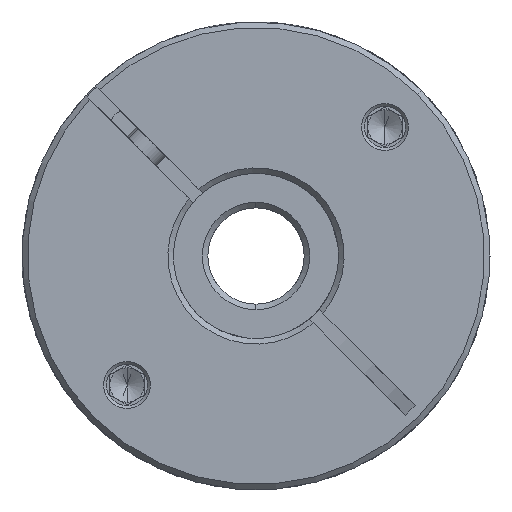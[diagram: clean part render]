
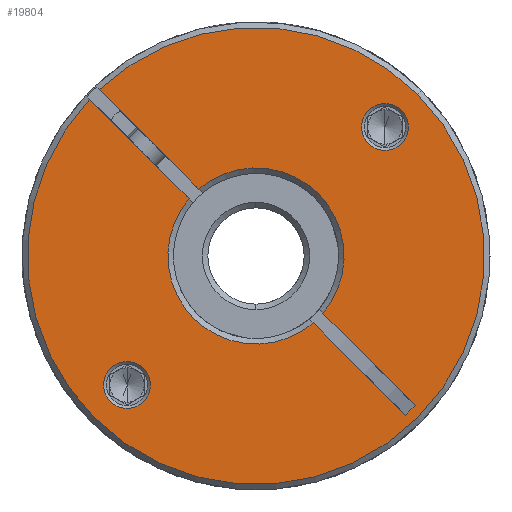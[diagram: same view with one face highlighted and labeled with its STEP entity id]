
A CAD part, front view. The second image highlights one B-rep face of the part: STEP entity #19804.
In plain terms, the highlighted planar face has unit normal (0, -1, 0).
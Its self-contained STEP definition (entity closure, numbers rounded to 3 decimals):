
#119 = CARTESIAN_POINT ( 'NONE',  ( 16.003, -67.045, 86.738 ) ) ;
#243 = DIRECTION ( 'NONE',  ( 0.707, 0., -0.707 ) ) ;
#452 = CARTESIAN_POINT ( 'NONE',  ( -19.069, -67.045, 51.666 ) ) ;
#539 = CARTESIAN_POINT ( 'NONE',  ( 18.407, -67.045, 89.142 ) ) ;
#543 = CARTESIAN_POINT ( 'NONE',  ( -2.735, -67.045, 68. ) ) ;
#909 = CARTESIAN_POINT ( 'NONE',  ( -2.735, -67.045, 68. ) ) ;
#920 = VERTEX_POINT ( 'NONE', #11904 ) ;
#1075 = CIRCLE ( 'NONE', #15099, 12.8 ) ;
#1234 = ORIENTED_EDGE ( 'NONE', *, *, #13383, .T. ) ;
#1530 = CARTESIAN_POINT ( 'NONE',  ( -25.493, -67.045, 92.172 ) ) ;
#1594 = CARTESIAN_POINT ( 'NONE',  ( -2.735, -67.045, 68. ) ) ;
#1637 = VERTEX_POINT ( 'NONE', #539 ) ;
#1730 = DIRECTION ( 'NONE',  ( 0.707, 0., 0.707 ) ) ;
#1946 = ORIENTED_EDGE ( 'NONE', *, *, #12187, .T. ) ;
#2082 = DIRECTION ( 'NONE',  ( 0.707, 0., 0.707 ) ) ;
#2195 = CARTESIAN_POINT ( 'NONE',  ( -3.442, -67.045, 67.293 ) ) ;
#2516 = EDGE_LOOP ( 'NONE', ( #17781, #1234 ) ) ;
#2738 = ORIENTED_EDGE ( 'NONE', *, *, #10467, .T. ) ;
#2809 = EDGE_CURVE ( 'NONE', #5464, #9027, #21040, .T. ) ;
#2909 = VERTEX_POINT ( 'NONE', #18828 ) ;
#3098 = VERTEX_POINT ( 'NONE', #11163 ) ;
#3099 = CIRCLE ( 'NONE', #9069, 3.4 ) ;
#3267 = VECTOR ( 'NONE', #20275, 1000. ) ;
#3464 = CARTESIAN_POINT ( 'NONE',  ( 5.581, -67.045, 58.27 ) ) ;
#3796 = LINE ( 'NONE', #16746, #19670 ) ;
#3805 = CIRCLE ( 'NONE', #19950, 3.4 ) ;
#4022 = VERTEX_POINT ( 'NONE', #3464 ) ;
#4346 = DIRECTION ( 'NONE',  ( 0., 1., 0. ) ) ;
#4406 = DIRECTION ( 'NONE',  ( 0., 1., 0. ) ) ;
#4409 = VERTEX_POINT ( 'NONE', #21558 ) ;
#4413 = ORIENTED_EDGE ( 'NONE', *, *, #17997, .T. ) ;
#4585 = DIRECTION ( 'NONE',  ( 0., 1., 0. ) ) ;
#4709 = CARTESIAN_POINT ( 'NONE',  ( -23.878, -67.045, 46.858 ) ) ;
#4785 = VERTEX_POINT ( 'NONE', #6247 ) ;
#4854 = FACE_BOUND ( 'NONE', #9739, .T. ) ;
#4878 = DIRECTION ( 'NONE',  ( 0.707, 0., 0.707 ) ) ;
#4938 = AXIS2_PLACEMENT_3D ( 'NONE', #11488, #4585, #4878 ) ;
#4988 = DIRECTION ( 'NONE',  ( 0., 1., 0. ) ) ;
#5241 = EDGE_CURVE ( 'NONE', #4785, #2909, #20751, .T. ) ;
#5362 = VERTEX_POINT ( 'NONE', #452 ) ;
#5402 = EDGE_CURVE ( 'NONE', #5362, #16980, #11912, .T. ) ;
#5464 = VERTEX_POINT ( 'NONE', #9524 ) ;
#5471 = DIRECTION ( 'NONE',  ( 0., -1., 0. ) ) ;
#5504 = DIRECTION ( 'NONE',  ( 0.707, 0., -0.707 ) ) ;
#5600 = ORIENTED_EDGE ( 'NONE', *, *, #14512, .F. ) ;
#5614 = CARTESIAN_POINT ( 'NONE',  ( -26.211, -67.045, 44.524 ) ) ;
#5976 = DIRECTION ( 'NONE',  ( 0., 1., 0. ) ) ;
#6247 = CARTESIAN_POINT ( 'NONE',  ( 20.402, -67.045, 46.277 ) ) ;
#6403 = DIRECTION ( 'NONE',  ( 0., 1., 0. ) ) ;
#6637 = CARTESIAN_POINT ( 'NONE',  ( 18.988, -67.045, 44.862 ) ) ;
#6646 = ORIENTED_EDGE ( 'NONE', *, *, #12580, .T. ) ;
#6990 = CARTESIAN_POINT ( 'NONE',  ( -3.442, -67.045, 67.293 ) ) ;
#7416 = AXIS2_PLACEMENT_3D ( 'NONE', #7901, #6403, #8190 ) ;
#7492 = EDGE_CURVE ( 'NONE', #4022, #920, #8398, .T. ) ;
#7500 = ORIENTED_EDGE ( 'NONE', *, *, #17108, .T. ) ;
#7640 = DIRECTION ( 'NONE',  ( 0.707, 0., 0.707 ) ) ;
#7730 = CIRCLE ( 'NONE', #19366, 33.2 ) ;
#7901 = CARTESIAN_POINT ( 'NONE',  ( -2.735, -67.045, 68. ) ) ;
#7957 = ORIENTED_EDGE ( 'NONE', *, *, #7492, .T. ) ;
#8190 = DIRECTION ( 'NONE',  ( 0.707, 0., 0.707 ) ) ;
#8398 = CIRCLE ( 'NONE', #11031, 12.8 ) ;
#8447 = DIRECTION ( 'NONE',  ( 0.707, 0., 0.707 ) ) ;
#8481 = AXIS2_PLACEMENT_3D ( 'NONE', #8735, #12092, #18744 ) ;
#8562 = VERTEX_POINT ( 'NONE', #17485 ) ;
#8735 = CARTESIAN_POINT ( 'NONE',  ( -2.735, -67.045, 68. ) ) ;
#9027 = VERTEX_POINT ( 'NONE', #5614 ) ;
#9069 = AXIS2_PLACEMENT_3D ( 'NONE', #119, #4988, #1730 ) ;
#9524 = CARTESIAN_POINT ( 'NONE',  ( -26.908, -67.045, 90.758 ) ) ;
#9573 = CIRCLE ( 'NONE', #8481, 33.2 ) ;
#9616 = DIRECTION ( 'NONE',  ( 0., -1., 0. ) ) ;
#9739 = EDGE_LOOP ( 'NONE', ( #19353, #19292 ) ) ;
#9821 = EDGE_LOOP ( 'NONE', ( #5600, #17432, #1946, #4413, #6646, #2738, #7500, #17076, #11212, #19410, #7957 ) ) ;
#9863 = DIRECTION ( 'NONE',  ( 0., -1., 0. ) ) ;
#10079 = PLANE ( 'NONE',  #16298 ) ;
#10180 = DIRECTION ( 'NONE',  ( 0.707, 0., -0.707 ) ) ;
#10264 = AXIS2_PLACEMENT_3D ( 'NONE', #12956, #9616, #14580 ) ;
#10467 = EDGE_CURVE ( 'NONE', #4409, #8562, #15553, .T. ) ;
#10815 = CIRCLE ( 'NONE', #4938, 3.4 ) ;
#11031 = AXIS2_PLACEMENT_3D ( 'NONE', #909, #4406, #7640 ) ;
#11163 = CARTESIAN_POINT ( 'NONE',  ( 13.599, -67.045, 84.334 ) ) ;
#11212 = ORIENTED_EDGE ( 'NONE', *, *, #5241, .T. ) ;
#11488 = CARTESIAN_POINT ( 'NONE',  ( 16.003, -67.045, 86.738 ) ) ;
#11712 = EDGE_CURVE ( 'NONE', #3098, #1637, #3099, .T. ) ;
#11802 = VECTOR ( 'NONE', #5504, 1000. ) ;
#11904 = CARTESIAN_POINT ( 'NONE',  ( -12.466, -67.045, 76.316 ) ) ;
#11912 = CIRCLE ( 'NONE', #15394, 3.4 ) ;
#12092 = DIRECTION ( 'NONE',  ( 0., -1., 0. ) ) ;
#12187 = EDGE_CURVE ( 'NONE', #9027, #14076, #7730, .T. ) ;
#12531 = EDGE_CURVE ( 'NONE', #4022, #2909, #16257, .T. ) ;
#12580 = EDGE_CURVE ( 'NONE', #21285, #4409, #3796, .T. ) ;
#12639 = VECTOR ( 'NONE', #10180, 1000. ) ;
#12784 = CARTESIAN_POINT ( 'NONE',  ( -21.473, -67.045, 49.262 ) ) ;
#12956 = CARTESIAN_POINT ( 'NONE',  ( -2.735, -67.045, 68. ) ) ;
#13383 = EDGE_CURVE ( 'NONE', #16980, #5362, #3805, .T. ) ;
#13840 = EDGE_CURVE ( 'NONE', #1637, #3098, #10815, .T. ) ;
#13962 = DIRECTION ( 'NONE',  ( 0., 1., 0. ) ) ;
#14076 = VERTEX_POINT ( 'NONE', #19224 ) ;
#14390 = CARTESIAN_POINT ( 'NONE',  ( -21.473, -67.045, 49.262 ) ) ;
#14512 = EDGE_CURVE ( 'NONE', #5464, #920, #15652, .T. ) ;
#14580 = DIRECTION ( 'NONE',  ( 0.707, 0., 0.707 ) ) ;
#14885 = LINE ( 'NONE', #15501, #11802 ) ;
#14947 = FACE_OUTER_BOUND ( 'NONE', #9821, .T. ) ;
#15099 = AXIS2_PLACEMENT_3D ( 'NONE', #543, #13962, #2082 ) ;
#15394 = AXIS2_PLACEMENT_3D ( 'NONE', #12784, #5976, #16032 ) ;
#15501 = CARTESIAN_POINT ( 'NONE',  ( -2.028, -67.045, 68.707 ) ) ;
#15553 = CIRCLE ( 'NONE', #7416, 12.8 ) ;
#15652 = LINE ( 'NONE', #2195, #3267 ) ;
#16032 = DIRECTION ( 'NONE',  ( 0.707, 0., 0.707 ) ) ;
#16257 = LINE ( 'NONE', #6990, #12639 ) ;
#16298 = AXIS2_PLACEMENT_3D ( 'NONE', #1594, #9863, #8447 ) ;
#16746 = CARTESIAN_POINT ( 'NONE',  ( -2.028, -67.045, 68.707 ) ) ;
#16834 = DIRECTION ( 'NONE',  ( -0.707, 0., -0.707 ) ) ;
#16980 = VERTEX_POINT ( 'NONE', #4709 ) ;
#17052 = VECTOR ( 'NONE', #16834, 1000. ) ;
#17076 = ORIENTED_EDGE ( 'NONE', *, *, #20884, .T. ) ;
#17108 = EDGE_CURVE ( 'NONE', #8562, #19602, #1075, .T. ) ;
#17432 = ORIENTED_EDGE ( 'NONE', *, *, #2809, .T. ) ;
#17485 = CARTESIAN_POINT ( 'NONE',  ( 6.316, -67.045, 77.051 ) ) ;
#17517 = CARTESIAN_POINT ( 'NONE',  ( 6.995, -67.045, 59.684 ) ) ;
#17781 = ORIENTED_EDGE ( 'NONE', *, *, #5402, .T. ) ;
#17997 = EDGE_CURVE ( 'NONE', #14076, #21285, #9573, .T. ) ;
#18744 = DIRECTION ( 'NONE',  ( 0.707, 0., 0.707 ) ) ;
#18828 = CARTESIAN_POINT ( 'NONE',  ( 18.988, -67.045, 44.862 ) ) ;
#18964 = DIRECTION ( 'NONE',  ( 0.707, 0., 0.707 ) ) ;
#19157 = DIRECTION ( 'NONE',  ( 0.707, 0., 0.707 ) ) ;
#19224 = CARTESIAN_POINT ( 'NONE',  ( 20.741, -67.045, 91.476 ) ) ;
#19292 = ORIENTED_EDGE ( 'NONE', *, *, #11712, .T. ) ;
#19353 = ORIENTED_EDGE ( 'NONE', *, *, #13840, .T. ) ;
#19366 = AXIS2_PLACEMENT_3D ( 'NONE', #20515, #5471, #18964 ) ;
#19410 = ORIENTED_EDGE ( 'NONE', *, *, #12531, .F. ) ;
#19602 = VERTEX_POINT ( 'NONE', #17517 ) ;
#19670 = VECTOR ( 'NONE', #243, 1000. ) ;
#19804 = ADVANCED_FACE ( 'NONE', ( #4854, #19932, #14947 ), #10079, .T. ) ;
#19932 = FACE_BOUND ( 'NONE', #2516, .T. ) ;
#19950 = AXIS2_PLACEMENT_3D ( 'NONE', #14390, #4346, #19157 ) ;
#20275 = DIRECTION ( 'NONE',  ( 0.707, 0., -0.707 ) ) ;
#20515 = CARTESIAN_POINT ( 'NONE',  ( -2.735, -67.045, 68. ) ) ;
#20751 = LINE ( 'NONE', #6637, #17052 ) ;
#20884 = EDGE_CURVE ( 'NONE', #19602, #4785, #14885, .T. ) ;
#21040 = CIRCLE ( 'NONE', #10264, 33.2 ) ;
#21285 = VERTEX_POINT ( 'NONE', #1530 ) ;
#21558 = CARTESIAN_POINT ( 'NONE',  ( -11.051, -67.045, 77.73 ) ) ;
